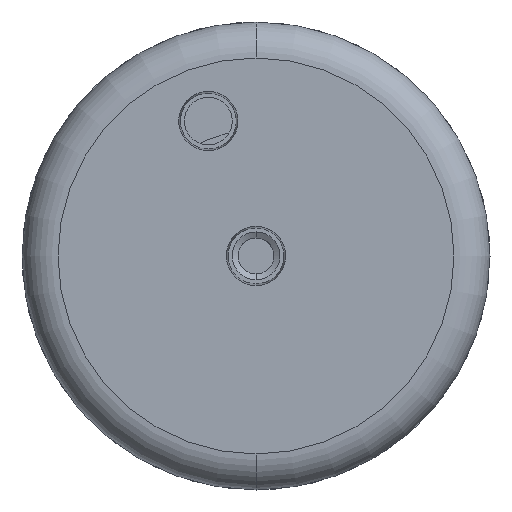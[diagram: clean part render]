
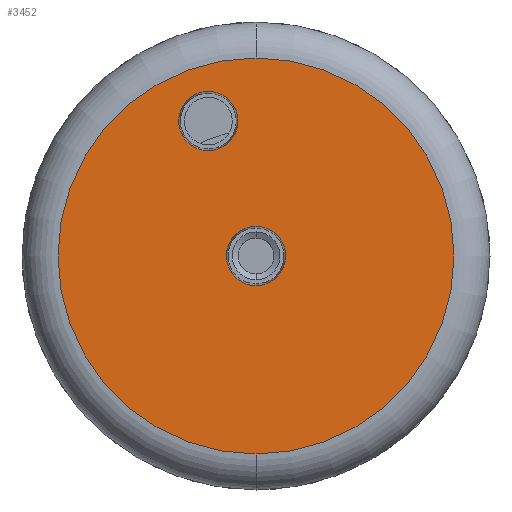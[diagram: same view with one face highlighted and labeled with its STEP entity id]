
A CAD part, left-side view. The second image highlights one B-rep face of the part: STEP entity #3452.
In plain terms, the highlighted planar face has unit normal (-1, 0, 0).
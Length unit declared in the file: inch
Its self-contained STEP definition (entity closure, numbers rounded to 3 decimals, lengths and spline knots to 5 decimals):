
#53 = DIRECTION ( 'NONE',  ( -1., 0., 0. ) ) ;
#54 = DIRECTION ( 'NONE',  ( 0., 0., 1. ) ) ;
#55 = AXIS2_PLACEMENT_3D ( 'NONE', #58, #53, #54 ) ;
#56 = CIRCLE ( 'NONE', #55, 1.375 ) ;
#57 = CARTESIAN_POINT ( 'NONE',  ( 2.77058, 3.52549, 1.375 ) ) ;
#58 = CARTESIAN_POINT ( 'NONE',  ( 2.77058, 3.52549, 0. ) ) ;
#1855 = VERTEX_POINT ( 'NONE', #2531 ) ;
#2443 = DIRECTION ( 'NONE',  ( 0., 0., 1. ) ) ;
#2476 = DIRECTION ( 'NONE',  ( -1., 0., 0. ) ) ;
#2477 = CARTESIAN_POINT ( 'NONE',  ( 2.77058, 3.85675, 0.937 ) ) ;
#2486 = AXIS2_PLACEMENT_3D ( 'NONE', #2477, #2476, #2443 ) ;
#2531 = CARTESIAN_POINT ( 'NONE',  ( 2.77058, 3.85675, 1.14272 ) ) ;
#2592 = CARTESIAN_POINT ( 'NONE',  ( 2.77058, 3.85675, 0.73128 ) ) ;
#2609 = CIRCLE ( 'NONE', #2624, 0.20572 ) ;
#2617 = DIRECTION ( 'NONE',  ( 0., 0., 1. ) ) ;
#2619 = CARTESIAN_POINT ( 'NONE',  ( 2.77058, 3.85675, 0.937 ) ) ;
#2623 = DIRECTION ( 'NONE',  ( -1., 0., 0. ) ) ;
#2624 = AXIS2_PLACEMENT_3D ( 'NONE', #2619, #2623, #2617 ) ;
#3031 = CARTESIAN_POINT ( 'NONE',  ( 2.77058, 3.52549, -1.375 ) ) ;
#3041 = CIRCLE ( 'NONE', #2486, 0.20572 ) ;
#3119 = AXIS2_PLACEMENT_3D ( 'NONE', #3145, #3142, #3141 ) ;
#3120 = FACE_BOUND ( 'NONE', #3458, .T. ) ;
#3122 = AXIS2_PLACEMENT_3D ( 'NONE', #3129, #3125, #3127 ) ;
#3124 = FACE_OUTER_BOUND ( 'NONE', #3449, .T. ) ;
#3125 = DIRECTION ( 'NONE',  ( 1., 0., 0. ) ) ;
#3127 = DIRECTION ( 'NONE',  ( 0., 0., -1. ) ) ;
#3128 = FACE_BOUND ( 'NONE', #3453, .T. ) ;
#3129 = CARTESIAN_POINT ( 'NONE',  ( 2.77058, 4.90049, 0. ) ) ;
#3130 = PLANE ( 'NONE',  #3122 ) ;
#3131 = CARTESIAN_POINT ( 'NONE',  ( 2.77058, 3.52532, 0.00099 ) ) ;
#3132 = CIRCLE ( 'NONE', #3119, 1.375 ) ;
#3138 = DIRECTION ( 'NONE',  ( 0., 0., 1. ) ) ;
#3139 = DIRECTION ( 'NONE',  ( -1., 0., 0. ) ) ;
#3141 = DIRECTION ( 'NONE',  ( 0., 0., 1. ) ) ;
#3142 = DIRECTION ( 'NONE',  ( -1., 0., 0. ) ) ;
#3143 = AXIS2_PLACEMENT_3D ( 'NONE', #3131, #3139, #3138 ) ;
#3144 = CIRCLE ( 'NONE', #3143, 0.20572 ) ;
#3145 = CARTESIAN_POINT ( 'NONE',  ( 2.77058, 3.52549, 0. ) ) ;
#3227 = VERTEX_POINT ( 'NONE', #2592 ) ;
#3231 = EDGE_CURVE ( 'NONE', #3227, #1855, #2609, .T. ) ;
#3446 = VERTEX_POINT ( 'NONE', #3031 ) ;
#3447 = EDGE_CURVE ( 'NONE', #1855, #3227, #3041, .T. ) ;
#3448 = ORIENTED_EDGE ( 'NONE', *, *, #3231, .F. ) ;
#3449 = EDGE_LOOP ( 'NONE', ( #3473, #3474 ) ) ;
#3452 = ADVANCED_FACE ( 'NONE', ( #3128, #3120, #3124 ), #3130, .F. ) ;
#3453 = EDGE_LOOP ( 'NONE', ( #3461, #3464 ) ) ;
#3458 = EDGE_LOOP ( 'NONE', ( #3459, #3448 ) ) ;
#3459 = ORIENTED_EDGE ( 'NONE', *, *, #3447, .F. ) ;
#3461 = ORIENTED_EDGE ( 'NONE', *, *, #3465, .F. ) ;
#3462 = EDGE_CURVE ( 'NONE', #3446, #3483, #3132, .T. ) ;
#3464 = ORIENTED_EDGE ( 'NONE', *, *, #3791, .F. ) ;
#3465 = EDGE_CURVE ( 'NONE', #3775, #3789, #3144, .T. ) ;
#3473 = ORIENTED_EDGE ( 'NONE', *, *, #3481, .T. ) ;
#3474 = ORIENTED_EDGE ( 'NONE', *, *, #3462, .T. ) ;
#3481 = EDGE_CURVE ( 'NONE', #3483, #3446, #56, .T. ) ;
#3483 = VERTEX_POINT ( 'NONE', #57 ) ;
#3775 = VERTEX_POINT ( 'NONE', #4561 ) ;
#3789 = VERTEX_POINT ( 'NONE', #4576 ) ;
#3791 = EDGE_CURVE ( 'NONE', #3789, #3775, #4614, .T. ) ;
#4561 = CARTESIAN_POINT ( 'NONE',  ( 2.77058, 3.52532, 0.2067 ) ) ;
#4575 = DIRECTION ( 'NONE',  ( 0., 0., 1. ) ) ;
#4576 = CARTESIAN_POINT ( 'NONE',  ( 2.77058, 3.52532, -0.20473 ) ) ;
#4586 = CARTESIAN_POINT ( 'NONE',  ( 2.77058, 3.52532, 0.00099 ) ) ;
#4590 = AXIS2_PLACEMENT_3D ( 'NONE', #4586, #4604, #4575 ) ;
#4604 = DIRECTION ( 'NONE',  ( -1., 0., 0. ) ) ;
#4614 = CIRCLE ( 'NONE', #4590, 0.20572 ) ;
